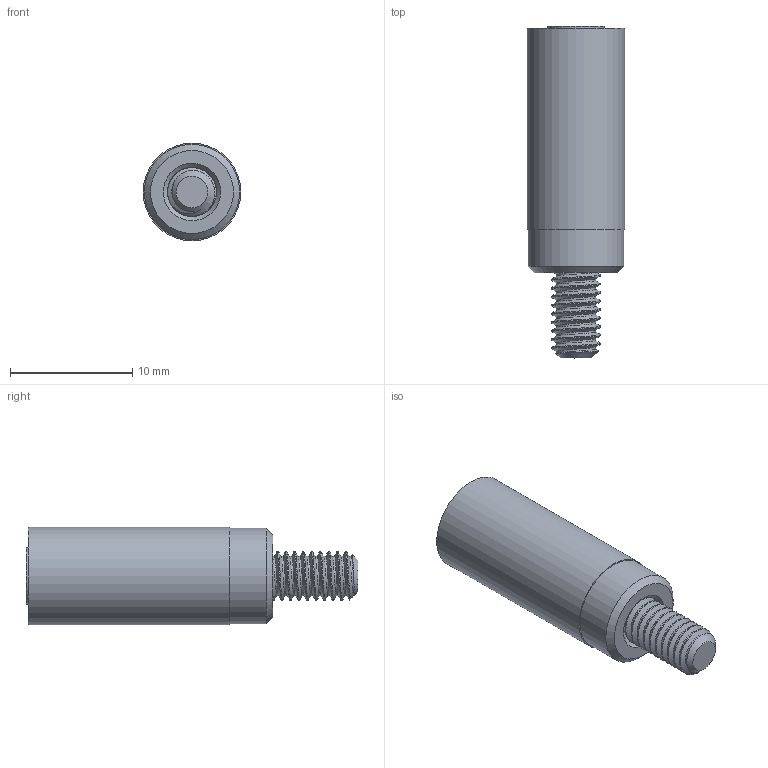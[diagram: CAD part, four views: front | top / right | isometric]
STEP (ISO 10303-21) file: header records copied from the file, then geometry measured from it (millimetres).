
FILE_DESCRIPTION (( 'STEP AP214' ), '1' );
FILE_NAME ('DAF-8.STEP', '2018-10-09T17:58:41', ( '' ), ( '' ), 'SwSTEP 2.0', 'SolidWorks 2017', '' );
FILE_SCHEMA (( 'AUTOMOTIVE_DESIGN' ));
Length unit declared in the file: millimetre
Products named in the file (1): DAF-8
Bounding box: 8 x 27.2 x 8 mm (x, y, z)
Volume: 1058.8 mm3; surface area: 920.1 mm2
Topology: 2 solids, 2 shells, 103 faces, 264 edges, 176 vertices
Faces by surface type: plane 53, cylinder 39, bspline 6, cone 5
Full cylindrical faces by diameter (mm): 3.3 x5, 4.6 x1, 7.8 x1, 8 x1
Entity records: 9537 total; most frequent: CARTESIAN_POINT 6412, ORIENTED_EDGE 466, DIRECTION 341, EDGE_CURVE 233, VERTEX_POINT 159, VECTOR 129, LINE 129, EDGE_LOOP 116
